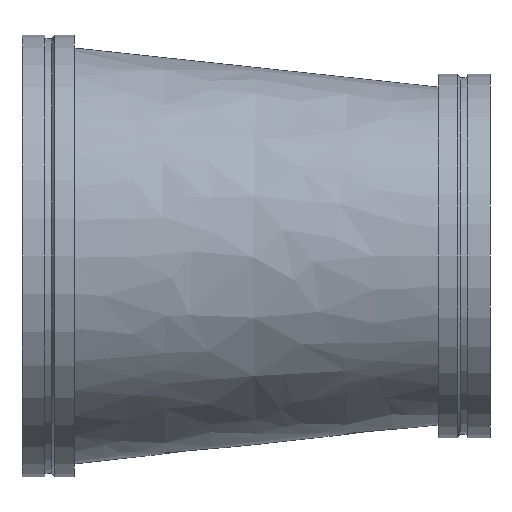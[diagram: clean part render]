
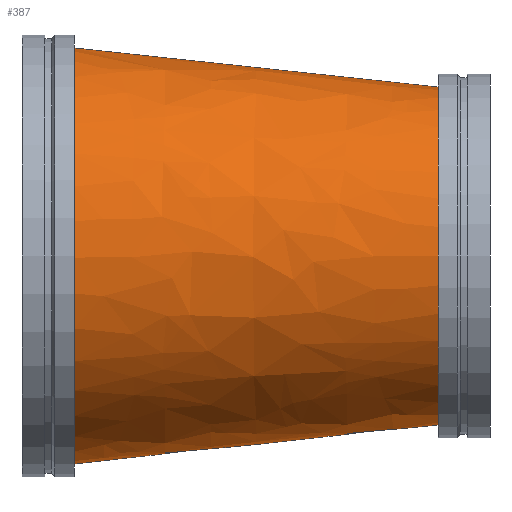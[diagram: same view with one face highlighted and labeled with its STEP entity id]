
A CAD part, front view. The second image highlights one B-rep face of the part: STEP entity #387.
In plain terms, the highlighted free-form (B-spline) face has degree [1, 2] with [2, 9] control points.
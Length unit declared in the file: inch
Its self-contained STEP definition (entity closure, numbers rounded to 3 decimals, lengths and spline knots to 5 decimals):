
#46=B_SPLINE_CURVE_WITH_KNOTS('',1,(#747,#748),.UNSPECIFIED.,.F.,.F.,(2,
2),(-1.77083,-0.00119),.UNSPECIFIED.);
#48=(
BOUNDED_SURFACE()
B_SPLINE_SURFACE(1,2,((#729,#730,#731,#732,#733,#734,#735,#736,#737),(#738,
#739,#740,#741,#742,#743,#744,#745,#746)),.UNSPECIFIED.,.F.,.T.,.F.)
B_SPLINE_SURFACE_WITH_KNOTS((2,2),(3,2,2,2,3),(-0.10594,1.85594),
(-3.14159,-1.5708,0.,1.5708,3.14159),
 .UNSPECIFIED.)
GEOMETRIC_REPRESENTATION_ITEM()
RATIONAL_B_SPLINE_SURFACE(((1.,0.707,1.,0.707,1.,
0.707,1.,0.707,1.),(1.,0.707,1.,0.707,
1.,0.707,1.,0.707,1.)))
REPRESENTATION_ITEM('')
SURFACE()
);
#98=FACE_OUTER_BOUND('',#120,.T.);
#120=EDGE_LOOP('',(#321,#322,#323,#324,#325,#326));
#129=CIRCLE('',#415,13.);
#130=CIRCLE('',#416,13.);
#153=CIRCLE('',#450,16.);
#154=CIRCLE('',#451,16.);
#166=VERTEX_POINT('',#628);
#167=VERTEX_POINT('',#629);
#190=VERTEX_POINT('',#695);
#191=VERTEX_POINT('',#696);
#203=EDGE_CURVE('',#166,#167,#129,.T.);
#204=EDGE_CURVE('',#167,#166,#130,.T.);
#235=EDGE_CURVE('',#190,#191,#153,.T.);
#236=EDGE_CURVE('',#191,#190,#154,.T.);
#243=EDGE_CURVE('',#167,#191,#46,.T.);
#321=ORIENTED_EDGE('',*,*,#203,.T.);
#322=ORIENTED_EDGE('',*,*,#243,.T.);
#323=ORIENTED_EDGE('',*,*,#236,.T.);
#324=ORIENTED_EDGE('',*,*,#235,.T.);
#325=ORIENTED_EDGE('',*,*,#243,.F.);
#326=ORIENTED_EDGE('',*,*,#204,.T.);
#387=ADVANCED_FACE('',(#98),#48,.F.);
#415=AXIS2_PLACEMENT_3D('',#630,#486,#487);
#416=AXIS2_PLACEMENT_3D('',#631,#488,#489);
#450=AXIS2_PLACEMENT_3D('',#697,#564,#565);
#451=AXIS2_PLACEMENT_3D('',#698,#566,#567);
#486=DIRECTION('center_axis',(-1.,0.,0.));
#487=DIRECTION('ref_axis',(0.,-1.,0.));
#488=DIRECTION('center_axis',(-1.,0.,0.));
#489=DIRECTION('ref_axis',(0.,-1.,0.));
#564=DIRECTION('center_axis',(1.,0.,0.));
#565=DIRECTION('ref_axis',(0.,1.,0.));
#566=DIRECTION('center_axis',(1.,0.,0.));
#567=DIRECTION('ref_axis',(0.,1.,0.));
#628=CARTESIAN_POINT('',(32.,-16.,0.));
#629=CARTESIAN_POINT('',(32.,-3.1459,12.99918));
#630=CARTESIAN_POINT('Origin',(32.,-3.,0.));
#631=CARTESIAN_POINT('Origin',(32.,-3.,0.));
#695=CARTESIAN_POINT('',(4.,16.,0.));
#696=CARTESIAN_POINT('',(4.,-0.17957,15.99899));
#697=CARTESIAN_POINT('Origin',(4.,0.,0.));
#698=CARTESIAN_POINT('Origin',(4.,0.,0.));
#729=CARTESIAN_POINT('Ctrl Pts',(2.30495,0.,
16.18059));
#730=CARTESIAN_POINT('Ctrl Pts',(0.60991,-16.,16.18059));
#731=CARTESIAN_POINT('Ctrl Pts',(0.60991,-16.,0.));
#732=CARTESIAN_POINT('Ctrl Pts',(0.60991,-16.,-16.18059));
#733=CARTESIAN_POINT('Ctrl Pts',(2.30495,0.,
-16.18059));
#734=CARTESIAN_POINT('Ctrl Pts',(4.,16.,-16.18059));
#735=CARTESIAN_POINT('Ctrl Pts',(4.,16.,0.));
#736=CARTESIAN_POINT('Ctrl Pts',(4.,16.,16.18059));
#737=CARTESIAN_POINT('Ctrl Pts',(2.30495,0.,
16.18059));
#738=CARTESIAN_POINT('Ctrl Pts',(33.34665,-3.28857,12.85491));
#739=CARTESIAN_POINT('Ctrl Pts',(32.,-16.,12.85491));
#740=CARTESIAN_POINT('Ctrl Pts',(32.,-16.,0.));
#741=CARTESIAN_POINT('Ctrl Pts',(32.,-16.,-12.85491));
#742=CARTESIAN_POINT('Ctrl Pts',(33.34665,-3.28857,-12.85491));
#743=CARTESIAN_POINT('Ctrl Pts',(34.69331,9.42286,-12.85491));
#744=CARTESIAN_POINT('Ctrl Pts',(34.69331,9.42286,0.));
#745=CARTESIAN_POINT('Ctrl Pts',(34.69331,9.42286,12.85491));
#746=CARTESIAN_POINT('Ctrl Pts',(33.34665,-3.28857,12.85491));
#747=CARTESIAN_POINT('Ctrl Pts',(32.,-3.1459,12.99918));
#748=CARTESIAN_POINT('Ctrl Pts',(4.,-0.17957,15.99899));
